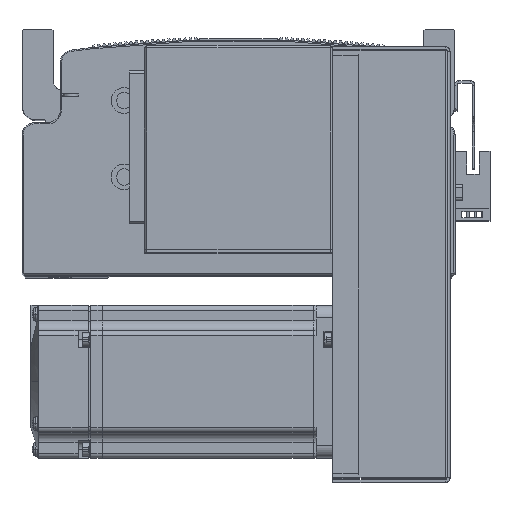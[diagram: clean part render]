
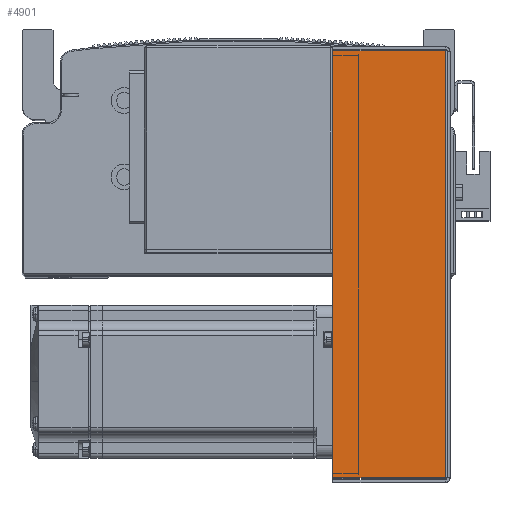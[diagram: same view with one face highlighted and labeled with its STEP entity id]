
A CAD part, top view. The second image highlights one B-rep face of the part: STEP entity #4901.
In plain terms, the highlighted planar face has unit normal (0, 0, 1) as drawn and (0, 0, -1) by its records, which use the part's own axes.
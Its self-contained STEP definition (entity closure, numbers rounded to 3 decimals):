
#4901 = ADVANCED_FACE ( 'NONE', ( #60551 ), #35099, .F. ) ;
#18654 = VECTOR ( 'NONE', #64660, 1000. ) ;
#18697 = LINE ( 'NONE', #63842, #18654 ) ;
#20698 = CARTESIAN_POINT ( 'NONE',  ( 83.793, 0.737, -40.5 ) ) ;
#20754 = CARTESIAN_POINT ( 'NONE',  ( 83.793, 45., -40.5 ) ) ;
#20802 = CARTESIAN_POINT ( 'NONE',  ( -83.793, 0.737, -40.5 ) ) ;
#20853 = CARTESIAN_POINT ( 'NONE',  ( -83.793, 45., -40.5 ) ) ;
#21687 = EDGE_CURVE ( 'NONE', #58513, #58452, #31656, .T. ) ;
#21691 = EDGE_CURVE ( 'NONE', #58519, #58449, #31660, .T. ) ;
#22657 = EDGE_CURVE ( 'NONE', #58449, #58452, #25380, .T. ) ;
#22678 = EDGE_CURVE ( 'NONE', #58519, #58513, #18697, .T. ) ;
#25380 = LINE ( 'NONE', #64847, #25460 ) ;
#25460 = VECTOR ( 'NONE', #64839, 1000. ) ;
#31613 = VECTOR ( 'NONE', #67482, 1000. ) ;
#31656 = LINE ( 'NONE', #67428, #31613 ) ;
#31660 = LINE ( 'NONE', #67487, #31662 ) ;
#31662 = VECTOR ( 'NONE', #67483, 1000. ) ;
#35069 = CARTESIAN_POINT ( 'NONE',  ( 0., 0., -40.5 ) ) ;
#35074 = DIRECTION ( 'NONE',  ( 0., 0., 1. ) ) ;
#35076 = DIRECTION ( 'NONE',  ( 0., -1., 0. ) ) ;
#35099 = PLANE ( 'NONE',  #39173 ) ;
#39173 = AXIS2_PLACEMENT_3D ( 'NONE', #35069, #35074, #35076 ) ;
#44389 = EDGE_LOOP ( 'NONE', ( #47848, #47900, #47829, #47840 ) ) ;
#47829 = ORIENTED_EDGE ( 'NONE', *, *, #21687, .T. ) ;
#47840 = ORIENTED_EDGE ( 'NONE', *, *, #22657, .F. ) ;
#47848 = ORIENTED_EDGE ( 'NONE', *, *, #21691, .F. ) ;
#47900 = ORIENTED_EDGE ( 'NONE', *, *, #22678, .T. ) ;
#58449 = VERTEX_POINT ( 'NONE', #20698 ) ;
#58452 = VERTEX_POINT ( 'NONE', #20754 ) ;
#58513 = VERTEX_POINT ( 'NONE', #20853 ) ;
#58519 = VERTEX_POINT ( 'NONE', #20802 ) ;
#60551 = FACE_OUTER_BOUND ( 'NONE', #44389, .T. ) ;
#63842 = CARTESIAN_POINT ( 'NONE',  ( -83.793, 0., -40.5 ) ) ;
#64660 = DIRECTION ( 'NONE',  ( 0., 1., 0. ) ) ;
#64839 = DIRECTION ( 'NONE',  ( 0., 1., 0. ) ) ;
#64847 = CARTESIAN_POINT ( 'NONE',  ( 83.793, 0., -40.5 ) ) ;
#67428 = CARTESIAN_POINT ( 'NONE',  ( 84.5, 45., -40.5 ) ) ;
#67482 = DIRECTION ( 'NONE',  ( 1., 0., 0. ) ) ;
#67483 = DIRECTION ( 'NONE',  ( 1., 0., 0. ) ) ;
#67487 = CARTESIAN_POINT ( 'NONE',  ( 0., 0.737, -40.5 ) ) ;
